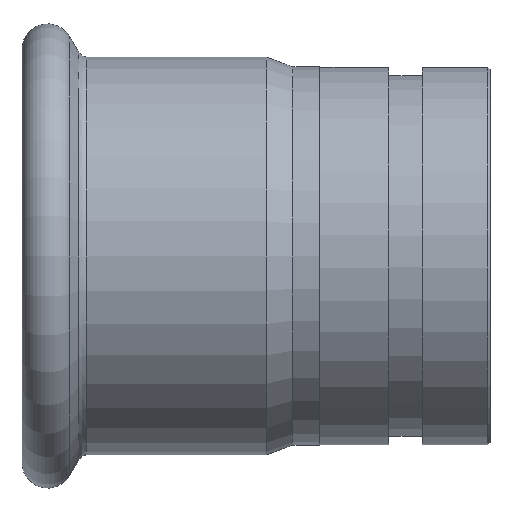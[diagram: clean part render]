
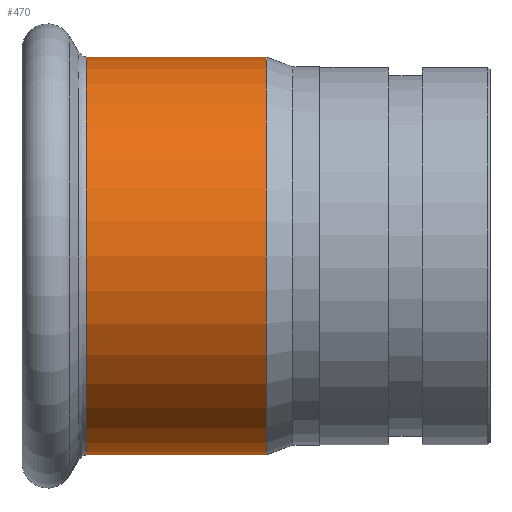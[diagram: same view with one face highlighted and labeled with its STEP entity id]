
A CAD part, front view. The second image highlights one B-rep face of the part: STEP entity #470.
In plain terms, the highlighted cylindrical face has radius 46.75 mm (diameter 93.5 mm), a full revolution.
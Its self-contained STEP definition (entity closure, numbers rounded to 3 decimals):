
#436=CARTESIAN_POINT('',(-54.878,46.75,0.0));
#437=VERTEX_POINT('',#436);
#438=CARTESIAN_POINT('',(-54.878,0.,0.0));
#439=DIRECTION('',(1.0,0.0,0.0));
#440=DIRECTION('',(0.0,1.0,0.0));
#441=AXIS2_PLACEMENT_3D('',#438,#439,#440);
#442=CIRCLE('',#441,46.75);
#443=EDGE_CURVE('',#437,#437,#442,.T.);
#451=CARTESIAN_POINT('',(-33.763,0.,0.0));
#452=DIRECTION('',(1.0,0.,0.0));
#453=DIRECTION('',(0.0,1.0,0.0));
#454=AXIS2_PLACEMENT_3D('',#451,#452,#453);
#455=CYLINDRICAL_SURFACE('',#454,46.75);
#456=CARTESIAN_POINT('',(-12.647,46.75,0.0));
#457=VERTEX_POINT('',#456);
#458=CARTESIAN_POINT('',(-12.647,0.,0.0));
#459=DIRECTION('',(1.0,0.0,0.0));
#460=DIRECTION('',(0.0,1.0,0.0));
#461=AXIS2_PLACEMENT_3D('',#458,#459,#460);
#462=CIRCLE('',#461,46.75);
#463=EDGE_CURVE('',#457,#457,#462,.T.);
#464=ORIENTED_EDGE('',*,*,#463,.F.);
#465=EDGE_LOOP('',(#464));
#466=FACE_OUTER_BOUND('',#465,.T.);
#467=ORIENTED_EDGE('',*,*,#443,.T.);
#468=EDGE_LOOP('',(#467));
#469=FACE_BOUND('',#468,.T.);
#470=ADVANCED_FACE('',(#466,#469),#455,.T.);
